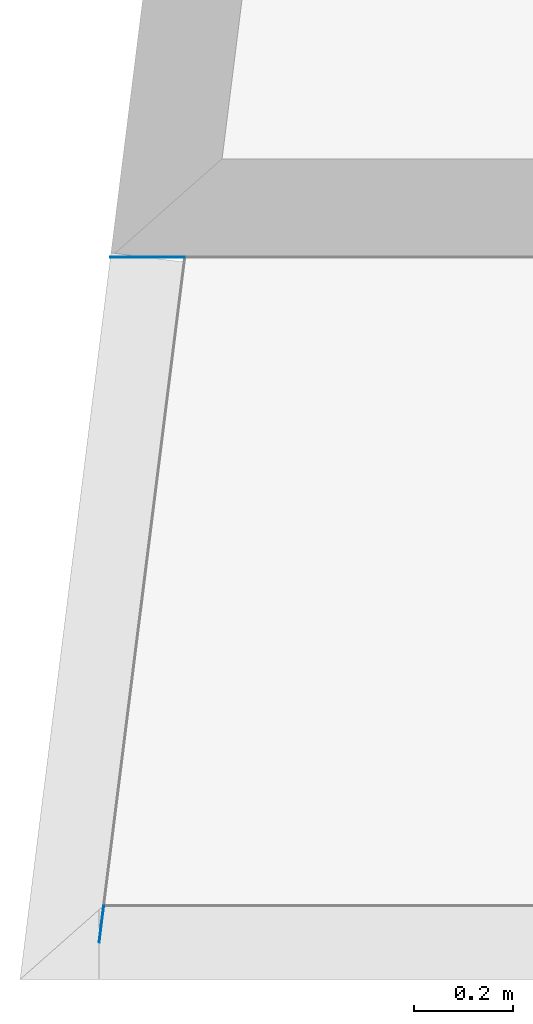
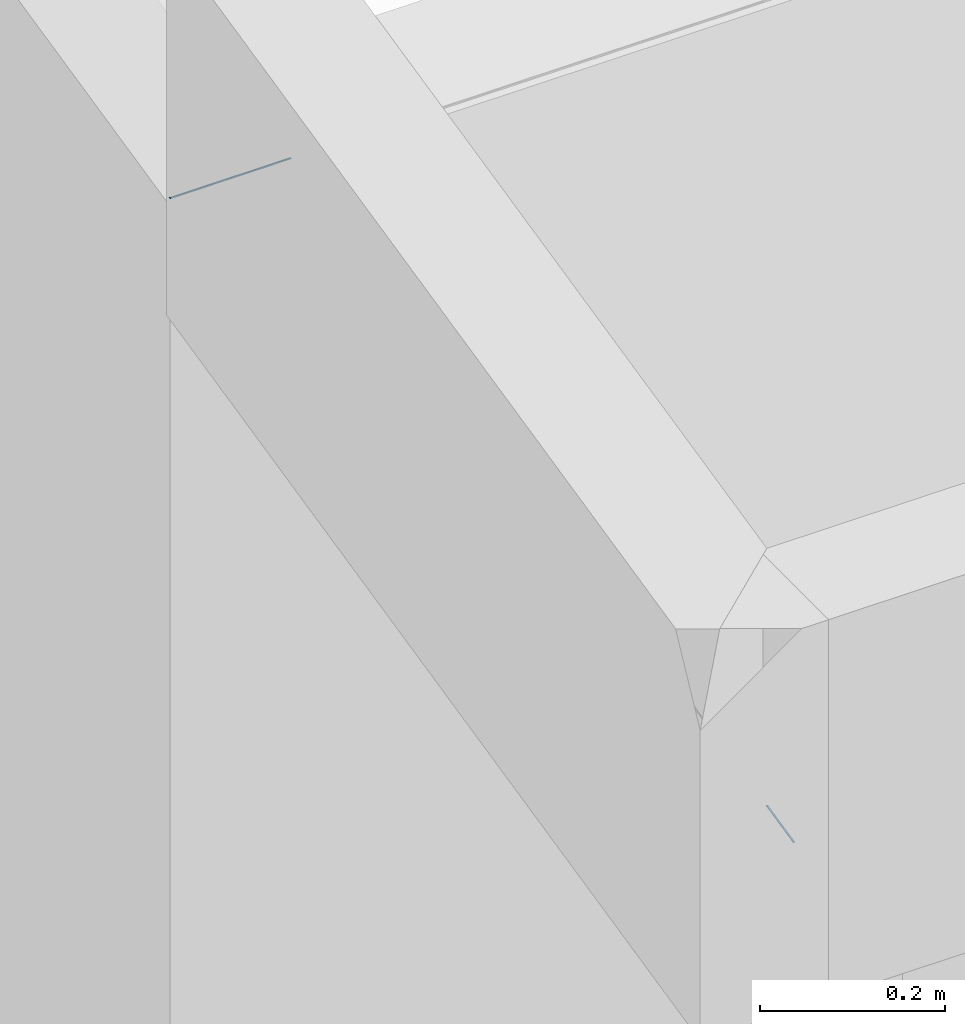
# One storey, part 9 of 17: 3 beams.
"""IFC2X3 building model written with IfcOpenShell, lengths in metres."""

from ifc_helpers import new_model, si_unit, direction, frame, origin_with_axes, place, context, subcontext, project, spatial, polyline, outline, extrude, material, type_object, element, save


model = new_model("IFC2X3")

# Units and contexts
model_context = context("Model", 3, precision=0.0001, world=origin_with_axes(), true_north=direction((0.0, 1.0)))
plan_context = context("Plan", 2, precision=0.0001, world=origin_with_axes(), true_north=direction((0.0, 1.0)))
body_context = subcontext(model_context, "Body", "Model", "MODEL_VIEW")
ifc_project = project(units=[si_unit("MASSUNIT", "GRAM", prefix="KILO"), si_unit("AREAUNIT", "SQUARE_METRE"), si_unit("LENGTHUNIT", "METRE"), si_unit("VOLUMEUNIT", "CUBIC_METRE")], contexts=[plan_context, model_context])

# Site, building, storey
site_placement = place(None, origin_with_axes())
site = spatial("IfcSite", under=ifc_project, at=site_placement, Name="$", CompositionType="ELEMENT")
building_placement = place(site_placement, origin_with_axes())
building = spatial("IfcBuilding", under=site, at=building_placement, Name="Classeur ENS Ensemble", CompositionType="ELEMENT")
storey_placement = place(building_placement, frame((-20.30778888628, -1.812671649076, 0.0), z_axis=(0.0, 0.0, 1.0), x_axis=(1.0, 0.0, 0.0)))
storey = spatial("IfcBuildingStorey", under=building, at=storey_placement, Name="001 RdC", CompositionType="ELEMENT", Elevation=0.0)

# Beams
ifc_material = material(Name="Default material")
beam_type = type_object("IfcBeamType", PredefinedType="BEAM")
beam_1_placement = place(storey_placement, frame((18.64083135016, -11.66732835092, 3.059999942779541), z_axis=(0.0, 0.0, 1.0), x_axis=(1.0, 0.0, 0.0)))
element("IfcBeam", 1, at=beam_1_placement, inside=storey, type_object=beam_type, material=ifc_material, Name="poutre fictive 306", context=body_context, shape_type="SweptSolid", held_by="IfcProductRepresentation", body=[
    extrude(outline(polyline([(0.0, 0.0009999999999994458), (0.0, 0.0009999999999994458), (0.0, 0.0009999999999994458), (0.07558512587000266, 0.0009999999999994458), (0.07558512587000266, 0.0009999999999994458), (0.07558512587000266, 0.0009999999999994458), (0.07558512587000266, -0.001000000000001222), (0.07558512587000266, -0.001000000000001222), (0.07558512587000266, -0.001000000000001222), (0.0, -0.001000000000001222), (0.0, -0.001000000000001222), (0.0, -0.001000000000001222), (0.0, 0.0009999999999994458)])), origin_with_axes(), (0.0, 0.0, 1.0), 0.001),
])
beam_2_placement = place(storey_placement, frame((18.71641647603, -11.66732835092, 3.059999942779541), z_axis=(0.0, 0.0, 1.0), x_axis=(1.0, 0.0, 0.0)))
element("IfcBeam", 2, at=beam_2_placement, inside=storey, type_object=beam_type, material=ifc_material, Name="poutre fictive 306", context=body_context, shape_type="SweptSolid", held_by="IfcProductRepresentation", body=[
    extrude(outline(polyline([(0.0, 0.0009999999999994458), (0.0, 0.0009999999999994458), (0.0, 0.0009999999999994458), (0.0755851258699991, 0.0009999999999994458), (0.0755851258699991, 0.0009999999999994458), (0.0755851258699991, 0.0009999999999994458), (0.0755851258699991, -0.001000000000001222), (0.0755851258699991, -0.001000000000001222), (0.0755851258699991, -0.001000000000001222), (0.0, -0.001000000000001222), (0.0, -0.001000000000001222), (0.0, -0.001000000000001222), (0.0, 0.0009999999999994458)])), origin_with_axes(), (0.0, 0.0, 1.0), 0.001),
])
beam_3_placement = place(storey_placement, frame((18.61803365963, -13.05732835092, 3.059999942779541), z_axis=(0.0, 0.0, 1.0), x_axis=(0.1241879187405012, 0.9922587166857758, 0.0)))
element("IfcBeam", 3, at=beam_3_placement, inside=storey, type_object=beam_type, material=ifc_material, Name="poutre fictive 306", context=body_context, shape_type="SweptSolid", held_by="IfcProductRepresentation", body=[
    extrude(outline(polyline([(-1.21018646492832e-15, 0.001000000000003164), (-1.21018646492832e-15, 0.001000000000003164), (-1.21018646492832e-15, 0.001000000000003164), (0.07558512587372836, 0.0009999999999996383), (0.07558512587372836, 0.0009999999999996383), (0.07558512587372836, 0.0009999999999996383), (0.07558512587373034, -0.001000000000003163), (0.07558512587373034, -0.001000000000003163), (0.07558512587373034, -0.001000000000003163), (7.689974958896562e-16, -0.0009999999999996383), (7.689974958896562e-16, -0.0009999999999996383), (7.689974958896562e-16, -0.0009999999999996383), (-1.21018646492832e-15, 0.001000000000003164)])), origin_with_axes(), (0.0, 0.0, 1.0), 0.001),
])

save(model, "model.ifc")
